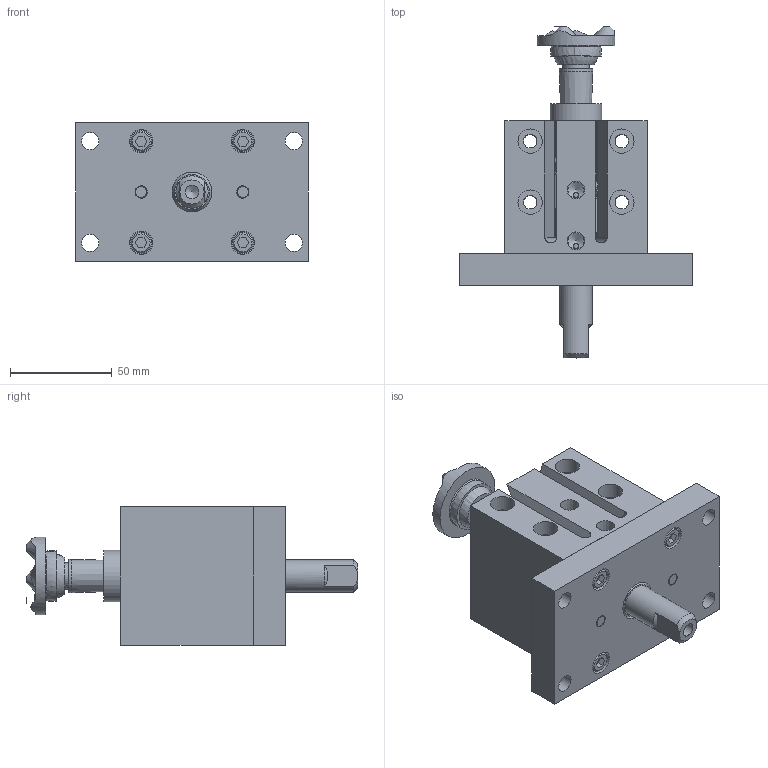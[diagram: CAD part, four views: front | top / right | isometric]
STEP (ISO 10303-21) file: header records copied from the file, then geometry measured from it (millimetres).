
FILE_DESCRIPTION(/* description */ ('PNEUMATIC PASS THRU GROUND UNIT'),/* implementation_level */ '2;1');
FILE_NAME(/* name */ 'C:\Vault Workspace\CAD\Welker\Cylinders\GBP\GBPDG.stp',/* time_stamp */ '2021-06-24T14:01:24-04:00',/* author */ ('KPL'),/* organization */ (''),/* preprocessor_version */ 'ST-DEVELOPER v18.1',/* originating_system */ 'Autodesk Inventor 2020',/* authorisation */ '');
FILE_SCHEMA (('AUTOMOTIVE_DESIGN { 1 0 10303 214 3 1 1 }'));
Products named in the file (11): GBPL01; 6mmX25 ; M6X1-20 SHCS; NL6; L3 Sensor 1; GBPH25E150200; GBPE01; GBPE02; GBPE03; AN-09U2145; AN-03U2145
Assembly tree (18 placements, depth 2):
  GBPL01
    6mmX25   x2
    M6X1-20 SHCS  x4
    NL6  x4
    L3 Sensor 1  x2
    GBPH25E150200
    GBPE01
    GBPE02
    GBPE03
    AN-09U2145
    AN-03U2145
Bounding box: 114.3 x 163.1 x 68 mm (x, y, z)
Volume: 392338.3 mm3; surface area: 96169.2 mm2
Topology: 18 solids, 18 shells, 529 faces, 1387 edges, 934 vertices
Faces by surface type: plane 329, cylinder 143, cone 45, torus 8, sphere 4
Full cylindrical faces by diameter (mm): 2.5 x2, 2.9 x2, 4.917 x4, 6 x10, 6.5 x8, 6.647 x5, 7.95 x2, 8 x2, 8.5 x4, 9.525 x1, 10 x4, 10.8 x4, 11.5 x4, 12 x4, 13 x1, 13.335 x1, 14.935 x2, 15.875 x4, 15.951 x2, 16.129 x1, 16.364 x1, 19.609 x1, 22.022 x1, 22.225 x1, 22.479 x2, 25.4 x1, 26.162 x1, 28.55 x1, 29.159 x1, 31.75 x3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
Entity records: 11747 total; most frequent: CARTESIAN_POINT 2143, DIRECTION 2021, ORIENTED_EDGE 1790, EDGE_CURVE 895, AXIS2_PLACEMENT_3D 775, VERTEX_POINT 626, LINE 471, VECTOR 471
